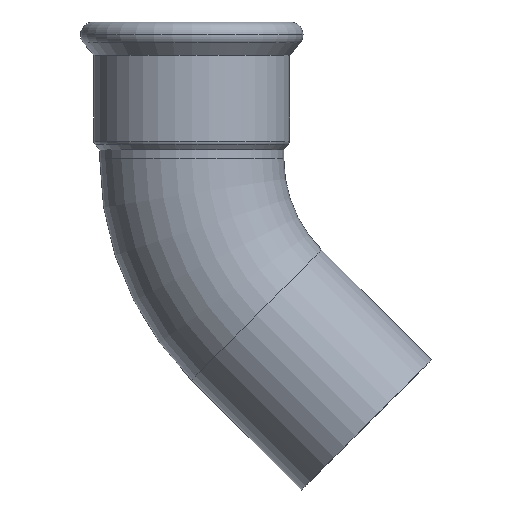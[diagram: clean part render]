
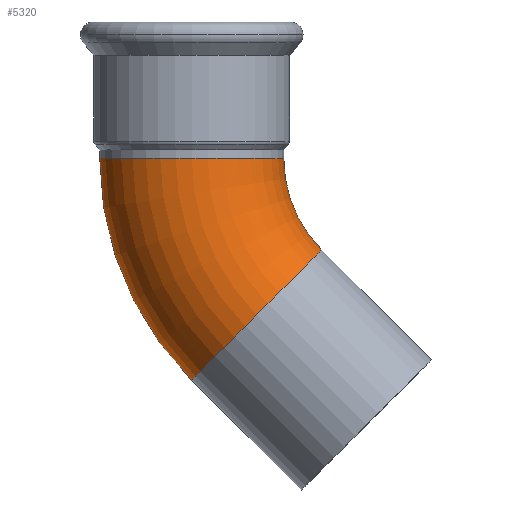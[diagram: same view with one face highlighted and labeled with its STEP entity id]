
A CAD part, top view. The second image highlights one B-rep face of the part: STEP entity #5320.
In plain terms, the highlighted toroidal (fillet/blend) face has major radius 65 mm and minor radius 27 mm.
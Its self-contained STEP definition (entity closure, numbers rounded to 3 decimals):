
#3920=CARTESIAN_POINT('',(68.474,164.349,
0.));
#3930=VERTEX_POINT('',#3920);
#3960=CARTESIAN_POINT('',(49.382,145.257,0.));
#3970=DIRECTION('',(0.707,-0.707,0.));
#3980=DIRECTION('',(-0.707,-0.707,0.));
#3990=AXIS2_PLACEMENT_3D('',#3960,#3970,#3980);
#4000=CIRCLE('',#3990,27.);
#4010=CARTESIAN_POINT('',(30.29,126.165,0.));
#4020=VERTEX_POINT('',#4010);
#4280=CARTESIAN_POINT('',(30.344,191.219,0.));
#4290=DIRECTION('',(0.,-1.,0.));
#4300=DIRECTION('',(-1.,0.,0.));
#4310=AXIS2_PLACEMENT_3D('',#4280,#4290,#4300);
#4320=CIRCLE('',#4310,27.);
#4330=CARTESIAN_POINT('',(30.344,191.219,27.));
#4340=VERTEX_POINT('',#4330);
#4350=CARTESIAN_POINT('',(3.344,191.219,0.));
#4360=VERTEX_POINT('',#4350);
#4370=EDGE_CURVE('',#4340,#4360,#4320,.T.);
#4510=CARTESIAN_POINT('',(57.344,191.219,
0.));
#4520=VERTEX_POINT('',#4510);
#4550=EDGE_CURVE('',#4520,#4340,#4320,.T.);
#5030=CARTESIAN_POINT('',(95.344,191.219,0.));
#5040=DIRECTION('',(0.,0.,1.));
#5050=DIRECTION('',(-1.,0.,0.));
#5060=AXIS2_PLACEMENT_3D('',#5030,#5040,#5050);
#5070=TOROIDAL_SURFACE('',#5060,65.,27.);
#5080=CARTESIAN_POINT('',(49.382,145.257,27.));
#5090=VERTEX_POINT('',#5080);
#5100=EDGE_CURVE('',#5090,#4020,#4000,.T.);
#5110=ORIENTED_EDGE('',*,*,#5100,.F.);
#5120=CARTESIAN_POINT('',(95.344,191.219,
0.));
#5130=DIRECTION('',(0.,0.,1.));
#5140=DIRECTION('',(-1.,0.,0.));
#5150=AXIS2_PLACEMENT_3D('',#5120,#5130,#5140);
#5160=CIRCLE('',#5150,92.);
#5170=EDGE_CURVE('',#4360,#4020,#5160,.T.);
#5180=ORIENTED_EDGE('',*,*,#5170,.T.);
#5190=ORIENTED_EDGE('',*,*,#4370,.T.);
#5200=ORIENTED_EDGE('',*,*,#4550,.T.);
#5210=CARTESIAN_POINT('',(95.344,191.219,
0.));
#5220=DIRECTION('',(0.,0.,1.));
#5230=DIRECTION('',(-1.,0.,0.));
#5240=AXIS2_PLACEMENT_3D('',#5210,#5220,#5230);
#5250=CIRCLE('',#5240,38.);
#5260=EDGE_CURVE('',#4520,#3930,#5250,.T.);
#5270=ORIENTED_EDGE('',*,*,#5260,.F.);
#5280=EDGE_CURVE('',#3930,#5090,#4000,.T.);
#5290=ORIENTED_EDGE('',*,*,#5280,.F.);
#5300=EDGE_LOOP('',(#5290,#5270,#5200,#5190,#5180,#5110));
#5310=FACE_OUTER_BOUND('',#5300,.T.);
#5320=ADVANCED_FACE('',(#5310),#5070,.T.);
